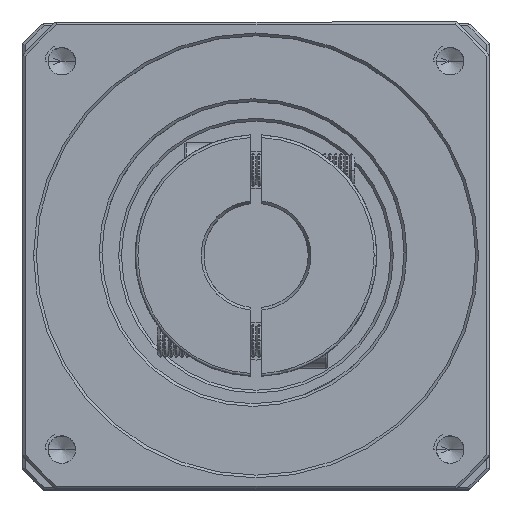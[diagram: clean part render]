
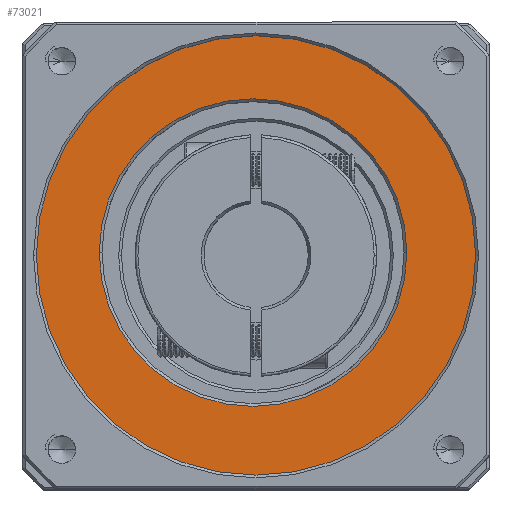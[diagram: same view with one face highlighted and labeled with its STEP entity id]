
A CAD part, top view. The second image highlights one B-rep face of the part: STEP entity #73021.
In plain terms, the highlighted planar face has unit normal (0, 0, 1).
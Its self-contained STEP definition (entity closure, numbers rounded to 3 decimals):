
#514 = VERTEX_POINT ( 'NONE', #99305 ) ;
#7062 = CIRCLE ( 'NONE', #69467, 28. ) ;
#8225 = CIRCLE ( 'NONE', #92259, 40. ) ;
#11251 = FACE_OUTER_BOUND ( 'NONE', #32618, .T. ) ;
#14574 = VERTEX_POINT ( 'NONE', #30269 ) ;
#25149 = CIRCLE ( 'NONE', #48991, 28. ) ;
#25511 = PLANE ( 'NONE',  #32039 ) ;
#28202 = DIRECTION ( 'NONE',  ( 0., 0., 1. ) ) ;
#29295 = CARTESIAN_POINT ( 'NONE',  ( -30.508, 52.391, -13.128 ) ) ;
#30269 = CARTESIAN_POINT ( 'NONE',  ( -2.508, 52.391, -13.128 ) ) ;
#30880 = EDGE_LOOP ( 'NONE', ( #73592, #86896 ) ) ;
#32039 = AXIS2_PLACEMENT_3D ( 'NONE', #54202, #72606, #44362 ) ;
#32618 = EDGE_LOOP ( 'NONE', ( #112029, #123450 ) ) ;
#34259 = CARTESIAN_POINT ( 'NONE',  ( -69.966, 51.857, -13.128 ) ) ;
#37980 = VERTEX_POINT ( 'NONE', #34259 ) ;
#44362 = DIRECTION ( 'NONE',  ( 1., 0., 0. ) ) ;
#47927 = CARTESIAN_POINT ( 'NONE',  ( -29.966, 51.857, -13.128 ) ) ;
#48991 = AXIS2_PLACEMENT_3D ( 'NONE', #88617, #59166, #118569 ) ;
#54202 = CARTESIAN_POINT ( 'NONE',  ( -29.966, 51.857, -13.128 ) ) ;
#58418 = VERTEX_POINT ( 'NONE', #85165 ) ;
#59166 = DIRECTION ( 'NONE',  ( 0., 0., -1. ) ) ;
#59551 = AXIS2_PLACEMENT_3D ( 'NONE', #47927, #28202, #96665 ) ;
#69467 = AXIS2_PLACEMENT_3D ( 'NONE', #29295, #107218, #125103 ) ;
#72606 = DIRECTION ( 'NONE',  ( 0., 0., 1. ) ) ;
#73021 = ADVANCED_FACE ( 'NONE', ( #11251, #113722 ), #25511, .T. ) ;
#73592 = ORIENTED_EDGE ( 'NONE', *, *, #78438, .T. ) ;
#78438 = EDGE_CURVE ( 'NONE', #14574, #58418, #7062, .T. ) ;
#84458 = DIRECTION ( 'NONE',  ( 0., 0., 1. ) ) ;
#85012 = EDGE_CURVE ( 'NONE', #58418, #14574, #25149, .T. ) ;
#85165 = CARTESIAN_POINT ( 'NONE',  ( -58.508, 52.391, -13.128 ) ) ;
#86896 = ORIENTED_EDGE ( 'NONE', *, *, #85012, .T. ) ;
#88617 = CARTESIAN_POINT ( 'NONE',  ( -30.508, 52.391, -13.128 ) ) ;
#88988 = EDGE_CURVE ( 'NONE', #514, #37980, #97757, .T. ) ;
#92259 = AXIS2_PLACEMENT_3D ( 'NONE', #93860, #84458, #104132 ) ;
#93860 = CARTESIAN_POINT ( 'NONE',  ( -29.966, 51.857, -13.128 ) ) ;
#93964 = EDGE_CURVE ( 'NONE', #37980, #514, #8225, .T. ) ;
#96665 = DIRECTION ( 'NONE',  ( 1., 0., 0. ) ) ;
#97757 = CIRCLE ( 'NONE', #59551, 40. ) ;
#99305 = CARTESIAN_POINT ( 'NONE',  ( 10.034, 51.857, -13.128 ) ) ;
#104132 = DIRECTION ( 'NONE',  ( 1., 0., 0. ) ) ;
#107218 = DIRECTION ( 'NONE',  ( 0., 0., -1. ) ) ;
#112029 = ORIENTED_EDGE ( 'NONE', *, *, #88988, .T. ) ;
#113722 = FACE_BOUND ( 'NONE', #30880, .T. ) ;
#118569 = DIRECTION ( 'NONE',  ( 1., 0., 0. ) ) ;
#123450 = ORIENTED_EDGE ( 'NONE', *, *, #93964, .T. ) ;
#125103 = DIRECTION ( 'NONE',  ( 1., 0., 0. ) ) ;
